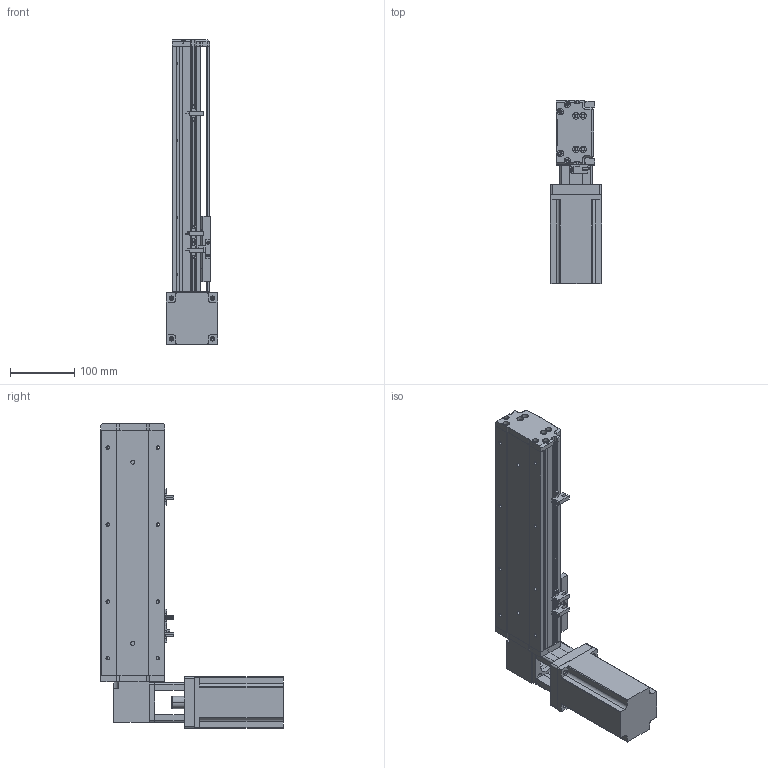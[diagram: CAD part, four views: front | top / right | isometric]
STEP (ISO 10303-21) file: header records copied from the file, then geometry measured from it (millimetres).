
FILE_DESCRIPTION (( 'STEP AP214' ), '1' );
FILE_NAME ('KSD100B-S200-MLT-CM.STEP', '2019-10-26T05:42:03', ( '微软用户' ), ( '微软中国' ), 'SwSTEP 2.0', 'SolidWorks 2014', '' );
FILE_SCHEMA (( 'AUTOMOTIVE_DESIGN' ));
Length unit declared in the file: millimetre
Products named in the file (12): 100宽安装板同步带带电机座400W,86; 台达ECMA－C20807AS伺服电机; 750W萇儂釱; 100宽防尘板200行程-同步带; U倰嫖萇EEㄜSX672; 覜茼え100遵圉猾敕; 100宽马达安装板同步带右; 100宽同步带安装板半封闭; 100宽马达安装板同步带; 100遵傷啣肮祭湍; 100宽底板半封闭同步带200行程; KSD100B-S200-MLT-CM
Assembly tree (13 placements, depth 2):
  KSD100B-S200-MLT-CM
    100宽底板半封闭同步带200行程
    100遵傷啣肮祭湍
    100宽马达安装板同步带
    100宽同步带安装板半封闭
    100宽马达安装板同步带右
    覜茼え100遵圉猾敕
    U倰嫖萇EEㄜSX672  x3
    100宽防尘板200行程-同步带
    750W萇儂釱
    台达ECMA－C20807AS伺服电机
    100宽安装板同步带带电机座400W,86
Bounding box: 80 x 284.3 x 474 mm (x, y, z)
Volume: 1857329.1 mm3; surface area: 451493.6 mm2
Topology: 14 solids, 14 shells, 1244 faces, 3442 edges, 2215 vertices
Faces by surface type: cylinder 599, plane 554, cone 91
Entity records: 41217 total; most frequent: CARTESIAN_POINT 7397, DIRECTION 5916, ORIENTED_EDGE 5608, EDGE_CURVE 2804, AXIS2_PLACEMENT_3D 2152, VERTEX_POINT 1839, VECTOR 1612, LINE 1612
